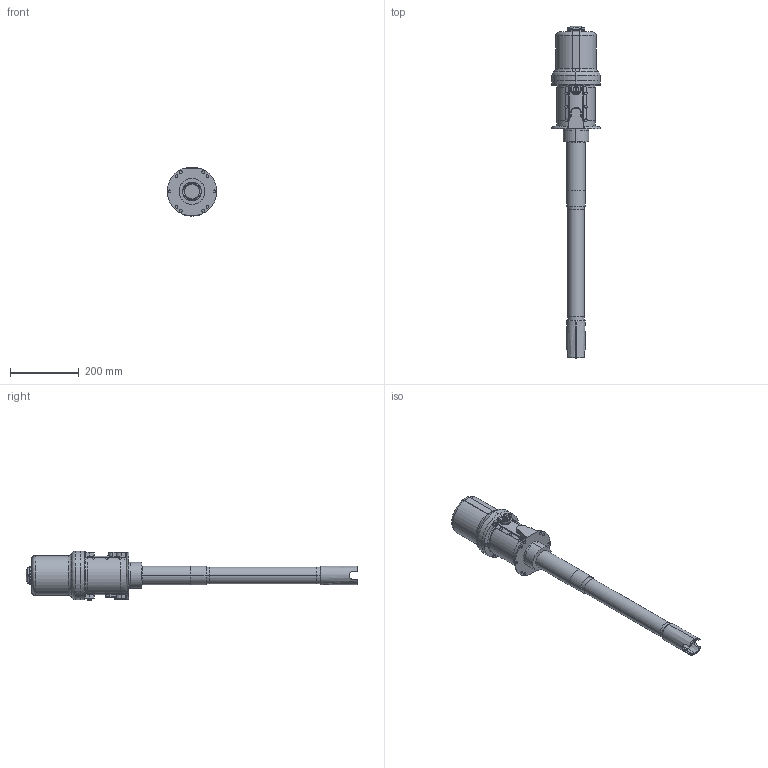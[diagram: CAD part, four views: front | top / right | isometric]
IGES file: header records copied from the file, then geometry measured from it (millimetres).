
Start section:  PTC IGES file: 203872-en-zak.igs
Global section: file name: 203872-en-zak.igs; native system: Creo Parametric by PTC Inc.; preprocessor: 2023424; author: qtmwp1; organization: Unknown; date: 20240322.095616; units: inch
Bounding box: 143.82 x 967.73 x 144.7 mm (x, y, z)
Surface area: 297120.2 mm2 (no closed solid volume)
Topology: 0 solids, 0 shells, 297 faces, 1502 edges, 1502 vertices
Faces by surface type: revolution 175, bspline 122
